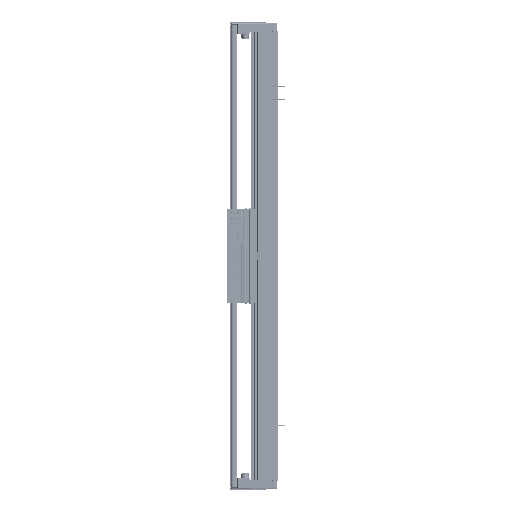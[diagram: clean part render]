
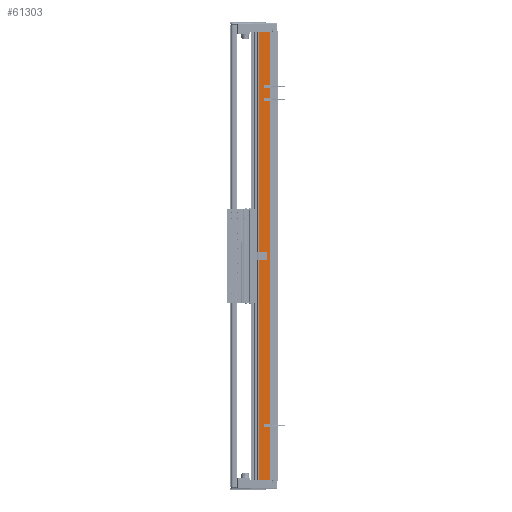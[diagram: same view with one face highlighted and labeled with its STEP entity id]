
A CAD part, left-side view. The second image highlights one B-rep face of the part: STEP entity #61303.
In plain terms, the highlighted planar face has unit normal (-1, 0, 0).
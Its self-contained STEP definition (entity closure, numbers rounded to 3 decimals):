
#1023 = LINE ( 'NONE', #96511, #50178 ) ;
#9794 = VECTOR ( 'NONE', #127809, 1000. ) ;
#14364 = ORIENTED_EDGE ( 'NONE', *, *, #39658, .T. ) ;
#16260 = DIRECTION ( 'NONE',  ( 0., 1., 0. ) ) ;
#22542 = VERTEX_POINT ( 'NONE', #47509 ) ;
#28094 = LINE ( 'NONE', #71529, #42768 ) ;
#31115 = EDGE_LOOP ( 'NONE', ( #14364, #58141, #135988, #93189 ) ) ;
#31636 = CARTESIAN_POINT ( 'NONE',  ( -97.5, 14.45, 450. ) ) ;
#32585 = EDGE_CURVE ( 'NONE', #22542, #38255, #136814, .T. ) ;
#38255 = VERTEX_POINT ( 'NONE', #94714 ) ;
#39658 = EDGE_CURVE ( 'NONE', #38255, #47587, #28094, .T. ) ;
#41599 = VECTOR ( 'NONE', #49300, 1000. ) ;
#41837 = VERTEX_POINT ( 'NONE', #107529 ) ;
#42768 = VECTOR ( 'NONE', #124281, 1000. ) ;
#47509 = CARTESIAN_POINT ( 'NONE',  ( -97.5, 36.95, 450. ) ) ;
#47587 = VERTEX_POINT ( 'NONE', #114156 ) ;
#49300 = DIRECTION ( 'NONE',  ( 0., 0., -1. ) ) ;
#49739 = DIRECTION ( 'NONE',  ( 1., 0., 0. ) ) ;
#50178 = VECTOR ( 'NONE', #129232, 1000. ) ;
#58141 = ORIENTED_EDGE ( 'NONE', *, *, #99421, .F. ) ;
#61303 = ADVANCED_FACE ( 'NONE', ( #124500 ), #70374, .F. ) ;
#70374 = PLANE ( 'NONE',  #92798 ) ;
#71529 = CARTESIAN_POINT ( 'NONE',  ( -97.5, 36.95, -450. ) ) ;
#92798 = AXIS2_PLACEMENT_3D ( 'NONE', #125215, #49739, #16260 ) ;
#93189 = ORIENTED_EDGE ( 'NONE', *, *, #32585, .T. ) ;
#94714 = CARTESIAN_POINT ( 'NONE',  ( -97.5, 36.95, -450. ) ) ;
#96511 = CARTESIAN_POINT ( 'NONE',  ( -97.5, 36.95, 450. ) ) ;
#99421 = EDGE_CURVE ( 'NONE', #41837, #47587, #127100, .T. ) ;
#107529 = CARTESIAN_POINT ( 'NONE',  ( -97.5, 14.45, 450. ) ) ;
#114156 = CARTESIAN_POINT ( 'NONE',  ( -97.5, 14.45, -450. ) ) ;
#116946 = EDGE_CURVE ( 'NONE', #22542, #41837, #1023, .T. ) ;
#124281 = DIRECTION ( 'NONE',  ( 0., -1., 0. ) ) ;
#124500 = FACE_OUTER_BOUND ( 'NONE', #31115, .T. ) ;
#125215 = CARTESIAN_POINT ( 'NONE',  ( -97.5, 36.95, 450. ) ) ;
#125474 = CARTESIAN_POINT ( 'NONE',  ( -97.5, 36.95, 450. ) ) ;
#127100 = LINE ( 'NONE', #31636, #9794 ) ;
#127809 = DIRECTION ( 'NONE',  ( 0., 0., -1. ) ) ;
#129232 = DIRECTION ( 'NONE',  ( 0., -1., 0. ) ) ;
#135988 = ORIENTED_EDGE ( 'NONE', *, *, #116946, .F. ) ;
#136814 = LINE ( 'NONE', #125474, #41599 ) ;
